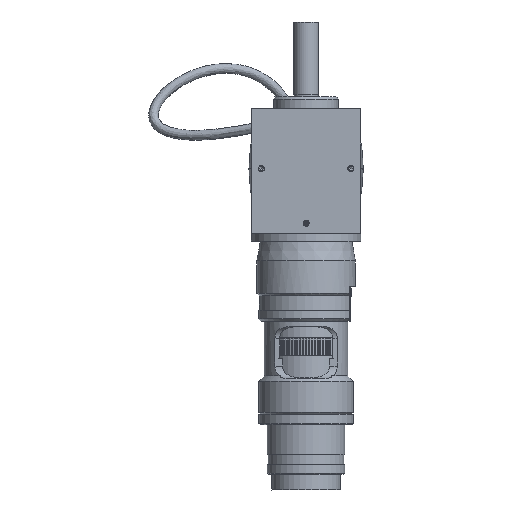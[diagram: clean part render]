
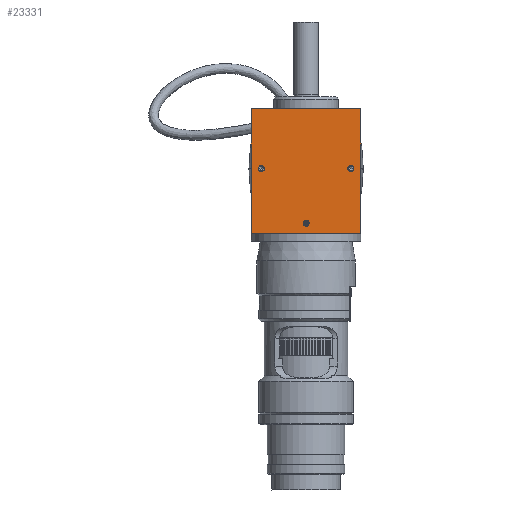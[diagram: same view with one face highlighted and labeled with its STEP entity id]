
A CAD part, left-side view. The second image highlights one B-rep face of the part: STEP entity #23331.
In plain terms, the highlighted planar face has unit normal (-1, 0, 0).
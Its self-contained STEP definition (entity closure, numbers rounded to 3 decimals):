
#1177=FACE_BOUND('',#3984,.T.);
#1178=FACE_BOUND('',#3985,.T.);
#1179=FACE_BOUND('',#3986,.T.);
#1617=PLANE('',#25282);
#2706=FACE_OUTER_BOUND('',#3983,.T.);
#3983=EDGE_LOOP('',(#19067,#19068,#19069,#19070));
#3984=EDGE_LOOP('',(#19071,#19072));
#3985=EDGE_LOOP('',(#19073,#19074));
#3986=EDGE_LOOP('',(#19075,#19076));
#5520=LINE('',#51801,#7116);
#5521=LINE('',#51803,#7117);
#5522=LINE('',#51805,#7118);
#5523=LINE('',#51806,#7119);
#7116=VECTOR('',#30168,10.);
#7117=VECTOR('',#30169,10.);
#7118=VECTOR('',#30170,10.);
#7119=VECTOR('',#30171,10.);
#8226=CIRCLE('',#25237,1.23);
#8227=CIRCLE('',#25238,1.23);
#8228=CIRCLE('',#25240,1.23);
#8229=CIRCLE('',#25241,1.23);
#8238=CIRCLE('',#25255,1.23);
#8239=CIRCLE('',#25256,1.23);
#10158=VERTEX_POINT('',#51312);
#10159=VERTEX_POINT('',#51313);
#10163=VERTEX_POINT('',#51359);
#10164=VERTEX_POINT('',#51360);
#10185=VERTEX_POINT('',#51696);
#10186=VERTEX_POINT('',#51697);
#10211=VERTEX_POINT('',#51799);
#10212=VERTEX_POINT('',#51800);
#10213=VERTEX_POINT('',#51802);
#10214=VERTEX_POINT('',#51804);
#13227=EDGE_CURVE('',#10158,#10159,#8226,.T.);
#13228=EDGE_CURVE('',#10159,#10158,#8227,.T.);
#13233=EDGE_CURVE('',#10163,#10164,#8228,.T.);
#13234=EDGE_CURVE('',#10164,#10163,#8229,.T.);
#13262=EDGE_CURVE('',#10185,#10186,#8238,.T.);
#13263=EDGE_CURVE('',#10186,#10185,#8239,.T.);
#13296=EDGE_CURVE('',#10211,#10212,#5520,.T.);
#13297=EDGE_CURVE('',#10213,#10212,#5521,.T.);
#13298=EDGE_CURVE('',#10213,#10214,#5522,.T.);
#13299=EDGE_CURVE('',#10214,#10211,#5523,.T.);
#19067=ORIENTED_EDGE('',*,*,#13296,.T.);
#19068=ORIENTED_EDGE('',*,*,#13297,.F.);
#19069=ORIENTED_EDGE('',*,*,#13298,.T.);
#19070=ORIENTED_EDGE('',*,*,#13299,.T.);
#19071=ORIENTED_EDGE('',*,*,#13227,.T.);
#19072=ORIENTED_EDGE('',*,*,#13228,.T.);
#19073=ORIENTED_EDGE('',*,*,#13233,.T.);
#19074=ORIENTED_EDGE('',*,*,#13234,.T.);
#19075=ORIENTED_EDGE('',*,*,#13262,.T.);
#19076=ORIENTED_EDGE('',*,*,#13263,.T.);
#23331=ADVANCED_FACE('',(#2706,#1177,#1178,#1179),#1617,.T.);
#25237=AXIS2_PLACEMENT_3D('',#51314,#30057,#30058);
#25238=AXIS2_PLACEMENT_3D('',#51315,#30059,#30060);
#25240=AXIS2_PLACEMENT_3D('',#51361,#30064,#30065);
#25241=AXIS2_PLACEMENT_3D('',#51362,#30066,#30067);
#25255=AXIS2_PLACEMENT_3D('',#51698,#30101,#30102);
#25256=AXIS2_PLACEMENT_3D('',#51699,#30103,#30104);
#25282=AXIS2_PLACEMENT_3D('',#51798,#30166,#30167);
#30057=DIRECTION('center_axis',(1.,0.,0.));
#30058=DIRECTION('ref_axis',(0.,-1.,0.));
#30059=DIRECTION('center_axis',(1.,0.,0.));
#30060=DIRECTION('ref_axis',(0.,-1.,0.));
#30064=DIRECTION('center_axis',(1.,0.,0.));
#30065=DIRECTION('ref_axis',(0.,-1.,0.));
#30066=DIRECTION('center_axis',(1.,0.,0.));
#30067=DIRECTION('ref_axis',(0.,-1.,0.));
#30101=DIRECTION('center_axis',(1.,0.,0.));
#30102=DIRECTION('ref_axis',(0.,-1.,0.));
#30103=DIRECTION('center_axis',(1.,0.,0.));
#30104=DIRECTION('ref_axis',(0.,-1.,0.));
#30166=DIRECTION('center_axis',(-1.,0.,0.));
#30167=DIRECTION('ref_axis',(0.,-1.,0.));
#30168=DIRECTION('',(0.,0.,1.));
#30169=DIRECTION('',(0.,-1.,0.));
#30170=DIRECTION('',(0.,0.,-1.));
#30171=DIRECTION('',(0.,-1.,0.));
#51312=CARTESIAN_POINT('',(-44.184,-19.23,7.));
#51313=CARTESIAN_POINT('',(-44.184,-16.771,7.));
#51314=CARTESIAN_POINT('Origin',(-44.184,-18.,7.));
#51315=CARTESIAN_POINT('Origin',(-44.184,-18.,7.));
#51359=CARTESIAN_POINT('',(-44.184,16.771,7.));
#51360=CARTESIAN_POINT('',(-44.184,19.23,7.));
#51361=CARTESIAN_POINT('Origin',(-44.184,18.,7.));
#51362=CARTESIAN_POINT('Origin',(-44.184,18.,7.));
#51696=CARTESIAN_POINT('',(-44.184,-1.23,-15.));
#51697=CARTESIAN_POINT('',(-44.184,1.229,-15.));
#51698=CARTESIAN_POINT('Origin',(-44.184,0.,
-15.));
#51699=CARTESIAN_POINT('Origin',(-44.184,0.,
-15.));
#51798=CARTESIAN_POINT('Origin',(-44.184,22.,-19.));
#51799=CARTESIAN_POINT('',(-44.184,-22.,-19.));
#51800=CARTESIAN_POINT('',(-44.184,-22.,31.));
#51801=CARTESIAN_POINT('',(-44.184,-22.,31.));
#51802=CARTESIAN_POINT('',(-44.184,22.,31.));
#51803=CARTESIAN_POINT('',(-44.184,22.,31.));
#51804=CARTESIAN_POINT('',(-44.184,22.,-19.));
#51805=CARTESIAN_POINT('',(-44.184,22.,31.));
#51806=CARTESIAN_POINT('',(-44.184,22.,-19.));
